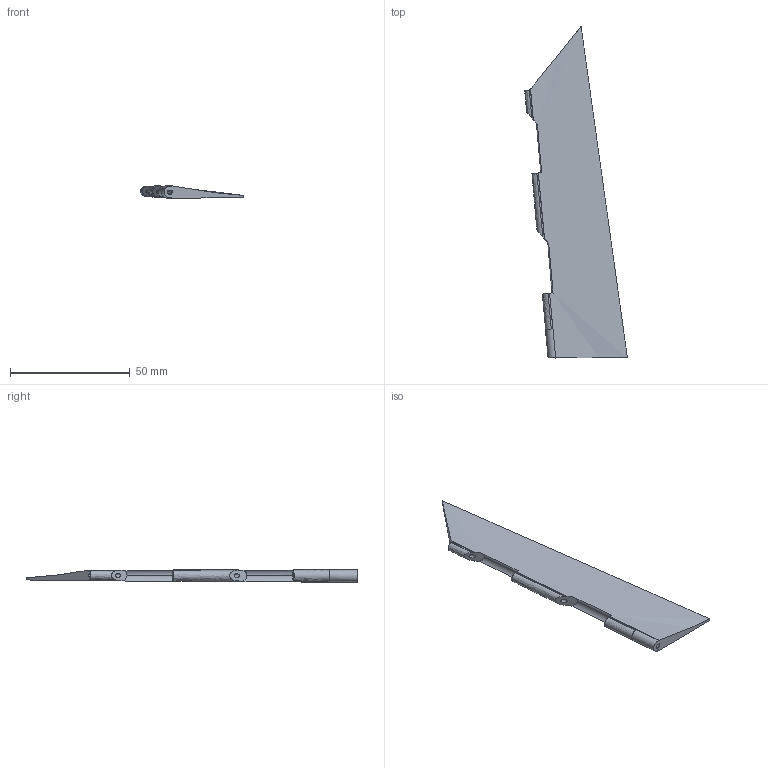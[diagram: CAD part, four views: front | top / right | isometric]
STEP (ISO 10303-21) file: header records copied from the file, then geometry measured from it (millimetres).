
FILE_DESCRIPTION(('SkyG Speed 90B - revision C6B-22 - 2026-10-16','AR-aileron-right'),'2;1');
FILE_NAME('AR-aileron-right_C6B-22','2026-10-16T19:15:21',('Author'),( 'Open CASCADE'),'Open CASCADE STEP processor 7.9','Open CASCADE 7.9' ,'Unknown');
FILE_SCHEMA(('AUTOMOTIVE_DESIGN { 1 0 10303 214 1 1 1 1 }'));
Length unit declared in the file: millimetre
Products named in the file (1): AR-aileron-right C6B-22
Bounding box: 42.88 x 138.6 x 5.27 mm (x, y, z)
Volume: 8782.4 mm3; surface area: 8261.5 mm2
Topology: 1 solids, 1 shells, 52 faces, 176 edges, 123 vertices
Faces by surface type: plane 22, bspline 16, cylinder 13, cone 1
Full cylindrical faces by diameter (mm): 1.6 x3
Entity records: 10516 total; most frequent: CARTESIAN_POINT 7726, B_SPLINE_CURVE_WITH_KNOTS 357, ORIENTED_EDGE 352, PCURVE 352, DEFINITIONAL_REPRESENTATION 352, DIRECTION 285, EDGE_CURVE 176, SURFACE_CURVE 169
